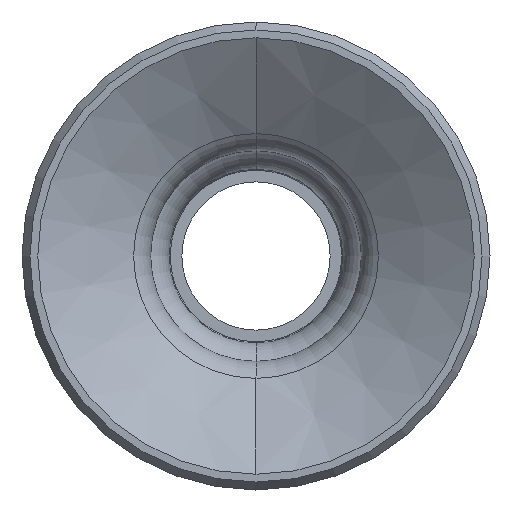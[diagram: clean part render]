
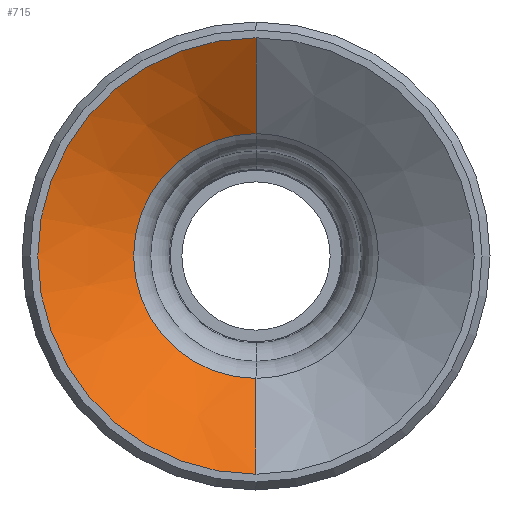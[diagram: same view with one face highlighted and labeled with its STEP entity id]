
A CAD part, front view. The second image highlights one B-rep face of the part: STEP entity #715.
In plain terms, the highlighted conical face has half-angle 55.76 degrees and reference radius 5.596 mm.
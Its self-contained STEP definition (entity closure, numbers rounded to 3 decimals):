
#2 = DIRECTION ( 'NONE',  ( 0., -1., 0. ) ) ;
#165 = VERTEX_POINT ( 'NONE', #2259 ) ;
#203 = CARTESIAN_POINT ( 'NONE',  ( 0., -20.5, 0. ) ) ;
#223 = LINE ( 'NONE', #2395, #917 ) ;
#229 = EDGE_CURVE ( 'NONE', #2082, #1714, #357, .T. ) ;
#357 = LINE ( 'NONE', #1288, #514 ) ;
#404 = AXIS2_PLACEMENT_3D ( 'NONE', #203, #960, #2258 ) ;
#410 = EDGE_LOOP ( 'NONE', ( #2323, #1472, #1468, #1652 ) ) ;
#495 = EDGE_CURVE ( 'NONE', #1527, #165, #223, .T. ) ;
#514 = VECTOR ( 'NONE', #2393, 1000. ) ;
#676 = AXIS2_PLACEMENT_3D ( 'NONE', #928, #2, #1560 ) ;
#715 = ADVANCED_FACE ( 'NONE', ( #1237 ), #1635, .F. ) ;
#801 = EDGE_CURVE ( 'NONE', #1527, #2082, #1148, .T. ) ;
#917 = VECTOR ( 'NONE', #1257, 1000. ) ;
#928 = CARTESIAN_POINT ( 'NONE',  ( 0., -20.5, 0. ) ) ;
#960 = DIRECTION ( 'NONE',  ( 0., 1., 0. ) ) ;
#1148 = CIRCLE ( 'NONE', #2049, 3.137 ) ;
#1237 = FACE_OUTER_BOUND ( 'NONE', #410, .T. ) ;
#1257 = DIRECTION ( 'NONE',  ( 0., -0.563, -0.827 ) ) ;
#1288 = CARTESIAN_POINT ( 'NONE',  ( 0., -20.5, 5.596 ) ) ;
#1359 = CARTESIAN_POINT ( 'NONE',  ( 0., -20.5, 5.596 ) ) ;
#1468 = ORIENTED_EDGE ( 'NONE', *, *, #2210, .F. ) ;
#1472 = ORIENTED_EDGE ( 'NONE', *, *, #229, .T. ) ;
#1527 = VERTEX_POINT ( 'NONE', #1668 ) ;
#1531 = DIRECTION ( 'NONE',  ( 0., 1., 0. ) ) ;
#1560 = DIRECTION ( 'NONE',  ( 0., 0., -1. ) ) ;
#1635 = CONICAL_SURFACE ( 'NONE', #676, 5.596, 0.973 ) ;
#1652 = ORIENTED_EDGE ( 'NONE', *, *, #495, .F. ) ;
#1668 = CARTESIAN_POINT ( 'NONE',  ( 0., -18.827, -3.137 ) ) ;
#1714 = VERTEX_POINT ( 'NONE', #1359 ) ;
#1885 = CARTESIAN_POINT ( 'NONE',  ( 0., -18.827, 3.137 ) ) ;
#1936 = DIRECTION ( 'NONE',  ( 0., 0., 1. ) ) ;
#2040 = CIRCLE ( 'NONE', #404, 5.596 ) ;
#2049 = AXIS2_PLACEMENT_3D ( 'NONE', #2106, #1531, #1936 ) ;
#2082 = VERTEX_POINT ( 'NONE', #1885 ) ;
#2106 = CARTESIAN_POINT ( 'NONE',  ( 0., -18.827, 0. ) ) ;
#2210 = EDGE_CURVE ( 'NONE', #165, #1714, #2040, .T. ) ;
#2258 = DIRECTION ( 'NONE',  ( 0., 0., 1. ) ) ;
#2259 = CARTESIAN_POINT ( 'NONE',  ( 0., -20.5, -5.596 ) ) ;
#2323 = ORIENTED_EDGE ( 'NONE', *, *, #801, .T. ) ;
#2393 = DIRECTION ( 'NONE',  ( 0., -0.563, 0.827 ) ) ;
#2395 = CARTESIAN_POINT ( 'NONE',  ( 0., -20.5, -5.596 ) ) ;
